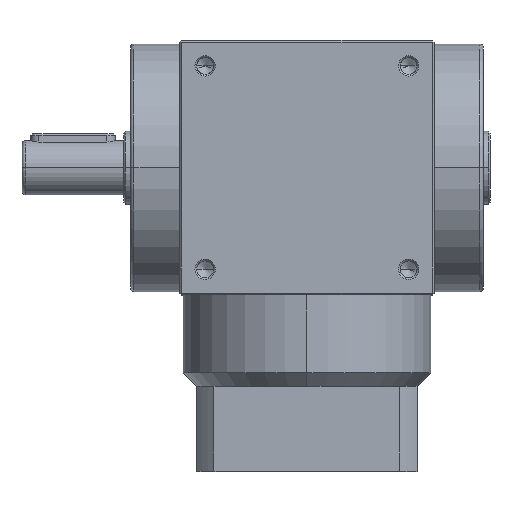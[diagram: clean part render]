
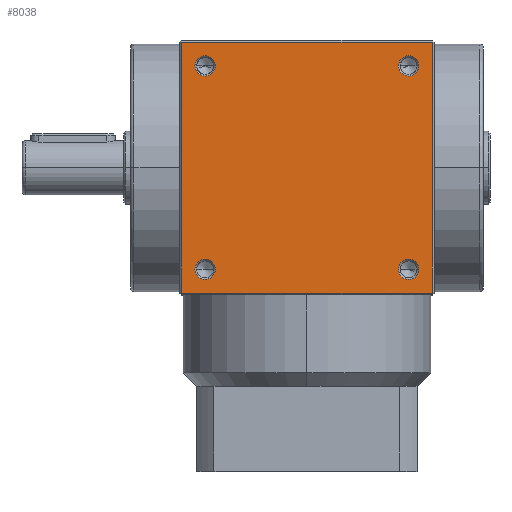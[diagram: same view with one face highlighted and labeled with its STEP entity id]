
A CAD part, top view. The second image highlights one B-rep face of the part: STEP entity #8038.
In plain terms, the highlighted planar face has unit normal (0, 0, 1).
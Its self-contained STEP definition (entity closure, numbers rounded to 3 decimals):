
#99 = DIRECTION ( 'NONE',  ( 0., 0., -1. ) ) ;
#146 = CARTESIAN_POINT ( 'NONE',  ( -33., -30., 37.5 ) ) ;
#156 = EDGE_LOOP ( 'NONE', ( #5364, #1910 ) ) ;
#210 = CARTESIAN_POINT ( 'NONE',  ( 30., 30., 37.5 ) ) ;
#295 = DIRECTION ( 'NONE',  ( -1., 0., 0. ) ) ;
#322 = CARTESIAN_POINT ( 'NONE',  ( -30., 30., 37.5 ) ) ;
#583 = CARTESIAN_POINT ( 'NONE',  ( 27., -30., 37.5 ) ) ;
#589 = LINE ( 'NONE', #7376, #909 ) ;
#652 = FACE_BOUND ( 'NONE', #5653, .T. ) ;
#722 = VERTEX_POINT ( 'NONE', #583 ) ;
#754 = CIRCLE ( 'NONE', #5859, 3. ) ;
#809 = PLANE ( 'NONE',  #1367 ) ;
#870 = LINE ( 'NONE', #4505, #4611 ) ;
#901 = CARTESIAN_POINT ( 'NONE',  ( 0., 0., 37.5 ) ) ;
#909 = VECTOR ( 'NONE', #4000, 1000. ) ;
#1053 = AXIS2_PLACEMENT_3D ( 'NONE', #5767, #3049, #6458 ) ;
#1071 = EDGE_CURVE ( 'NONE', #3305, #2233, #3508, .T. ) ;
#1191 = ORIENTED_EDGE ( 'NONE', *, *, #7841, .T. ) ;
#1367 = AXIS2_PLACEMENT_3D ( 'NONE', #901, #5674, #1563 ) ;
#1374 = CARTESIAN_POINT ( 'NONE',  ( 27., 30., 37.5 ) ) ;
#1394 = EDGE_CURVE ( 'NONE', #3103, #1542, #7755, .T. ) ;
#1436 = DIRECTION ( 'NONE',  ( -1., 0., 0. ) ) ;
#1542 = VERTEX_POINT ( 'NONE', #4158 ) ;
#1563 = DIRECTION ( 'NONE',  ( -1., 0., 0. ) ) ;
#1565 = ORIENTED_EDGE ( 'NONE', *, *, #6707, .T. ) ;
#1570 = VERTEX_POINT ( 'NONE', #1374 ) ;
#1606 = DIRECTION ( 'NONE',  ( -1., 0., 0. ) ) ;
#1731 = EDGE_LOOP ( 'NONE', ( #5040, #7885 ) ) ;
#1761 = AXIS2_PLACEMENT_3D ( 'NONE', #1831, #3301, #7363 ) ;
#1831 = CARTESIAN_POINT ( 'NONE',  ( 30., -30., 37.5 ) ) ;
#1910 = ORIENTED_EDGE ( 'NONE', *, *, #6882, .T. ) ;
#1956 = EDGE_CURVE ( 'NONE', #2896, #722, #5492, .T. ) ;
#2000 = CARTESIAN_POINT ( 'NONE',  ( 33., -30., 37.5 ) ) ;
#2028 = CARTESIAN_POINT ( 'NONE',  ( 37., 37., 37.5 ) ) ;
#2132 = DIRECTION ( 'NONE',  ( 0., 0., -1. ) ) ;
#2137 = CARTESIAN_POINT ( 'NONE',  ( -27., 30., 37.5 ) ) ;
#2233 = VERTEX_POINT ( 'NONE', #2363 ) ;
#2362 = ORIENTED_EDGE ( 'NONE', *, *, #1394, .T. ) ;
#2363 = CARTESIAN_POINT ( 'NONE',  ( 37., -37., 37.5 ) ) ;
#2365 = VERTEX_POINT ( 'NONE', #2028 ) ;
#2637 = EDGE_CURVE ( 'NONE', #7135, #1570, #6182, .T. ) ;
#2669 = FACE_BOUND ( 'NONE', #1731, .T. ) ;
#2739 = CARTESIAN_POINT ( 'NONE',  ( 30., 30., 37.5 ) ) ;
#2759 = AXIS2_PLACEMENT_3D ( 'NONE', #210, #4995, #1606 ) ;
#2775 = FACE_BOUND ( 'NONE', #156, .T. ) ;
#2790 = AXIS2_PLACEMENT_3D ( 'NONE', #5158, #4411, #7910 ) ;
#2803 = EDGE_LOOP ( 'NONE', ( #6687, #7146, #1191, #3812 ) ) ;
#2896 = VERTEX_POINT ( 'NONE', #2000 ) ;
#2985 = DIRECTION ( 'NONE',  ( 0., 0., -1. ) ) ;
#3049 = DIRECTION ( 'NONE',  ( 0., 0., -1. ) ) ;
#3078 = AXIS2_PLACEMENT_3D ( 'NONE', #8247, #7612, #1436 ) ;
#3103 = VERTEX_POINT ( 'NONE', #146 ) ;
#3219 = EDGE_CURVE ( 'NONE', #7358, #4547, #6165, .T. ) ;
#3301 = DIRECTION ( 'NONE',  ( 0., 0., -1. ) ) ;
#3305 = VERTEX_POINT ( 'NONE', #5012 ) ;
#3379 = CARTESIAN_POINT ( 'NONE',  ( -33., 30., 37.5 ) ) ;
#3440 = EDGE_CURVE ( 'NONE', #4278, #3305, #589, .T. ) ;
#3484 = CARTESIAN_POINT ( 'NONE',  ( -30., -30., 37.5 ) ) ;
#3508 = LINE ( 'NONE', #4413, #8728 ) ;
#3512 = EDGE_CURVE ( 'NONE', #722, #2896, #4338, .T. ) ;
#3812 = ORIENTED_EDGE ( 'NONE', *, *, #5226, .T. ) ;
#4000 = DIRECTION ( 'NONE',  ( 0., -1., 0. ) ) ;
#4158 = CARTESIAN_POINT ( 'NONE',  ( -27., -30., 37.5 ) ) ;
#4278 = VERTEX_POINT ( 'NONE', #7329 ) ;
#4296 = FACE_BOUND ( 'NONE', #5007, .T. ) ;
#4338 = CIRCLE ( 'NONE', #1761, 3. ) ;
#4411 = DIRECTION ( 'NONE',  ( 0., 0., -1. ) ) ;
#4413 = CARTESIAN_POINT ( 'NONE',  ( 0., -37., 37.5 ) ) ;
#4505 = CARTESIAN_POINT ( 'NONE',  ( 37., 0., 37.5 ) ) ;
#4547 = VERTEX_POINT ( 'NONE', #2137 ) ;
#4593 = ORIENTED_EDGE ( 'NONE', *, *, #3219, .T. ) ;
#4611 = VECTOR ( 'NONE', #7948, 1000. ) ;
#4995 = DIRECTION ( 'NONE',  ( 0., 0., -1. ) ) ;
#5007 = EDGE_LOOP ( 'NONE', ( #1565, #2362 ) ) ;
#5012 = CARTESIAN_POINT ( 'NONE',  ( -37., -37., 37.5 ) ) ;
#5034 = DIRECTION ( 'NONE',  ( 1., 0., 0. ) ) ;
#5040 = ORIENTED_EDGE ( 'NONE', *, *, #1956, .T. ) ;
#5089 = AXIS2_PLACEMENT_3D ( 'NONE', #322, #2985, #295 ) ;
#5158 = CARTESIAN_POINT ( 'NONE',  ( -30., 30., 37.5 ) ) ;
#5199 = VECTOR ( 'NONE', #6976, 1000. ) ;
#5226 = EDGE_CURVE ( 'NONE', #2365, #4278, #5508, .T. ) ;
#5364 = ORIENTED_EDGE ( 'NONE', *, *, #2637, .T. ) ;
#5492 = CIRCLE ( 'NONE', #3078, 3. ) ;
#5508 = LINE ( 'NONE', #5683, #5199 ) ;
#5653 = EDGE_LOOP ( 'NONE', ( #7026, #4593 ) ) ;
#5674 = DIRECTION ( 'NONE',  ( 0., 0., -1. ) ) ;
#5683 = CARTESIAN_POINT ( 'NONE',  ( 0., 37., 37.5 ) ) ;
#5767 = CARTESIAN_POINT ( 'NONE',  ( -30., -30., 37.5 ) ) ;
#5859 = AXIS2_PLACEMENT_3D ( 'NONE', #3484, #2132, #7535 ) ;
#6165 = CIRCLE ( 'NONE', #5089, 3. ) ;
#6182 = CIRCLE ( 'NONE', #7869, 3. ) ;
#6262 = CIRCLE ( 'NONE', #2759, 3. ) ;
#6458 = DIRECTION ( 'NONE',  ( -1., 0., 0. ) ) ;
#6687 = ORIENTED_EDGE ( 'NONE', *, *, #3440, .T. ) ;
#6707 = EDGE_CURVE ( 'NONE', #1542, #3103, #754, .T. ) ;
#6882 = EDGE_CURVE ( 'NONE', #1570, #7135, #6262, .T. ) ;
#6976 = DIRECTION ( 'NONE',  ( -1., 0., 0. ) ) ;
#7026 = ORIENTED_EDGE ( 'NONE', *, *, #8746, .T. ) ;
#7135 = VERTEX_POINT ( 'NONE', #8619 ) ;
#7146 = ORIENTED_EDGE ( 'NONE', *, *, #1071, .T. ) ;
#7329 = CARTESIAN_POINT ( 'NONE',  ( -37., 37., 37.5 ) ) ;
#7358 = VERTEX_POINT ( 'NONE', #3379 ) ;
#7363 = DIRECTION ( 'NONE',  ( -1., 0., 0. ) ) ;
#7376 = CARTESIAN_POINT ( 'NONE',  ( -37., 0., 37.5 ) ) ;
#7457 = FACE_OUTER_BOUND ( 'NONE', #2803, .T. ) ;
#7535 = DIRECTION ( 'NONE',  ( -1., 0., 0. ) ) ;
#7612 = DIRECTION ( 'NONE',  ( 0., 0., -1. ) ) ;
#7755 = CIRCLE ( 'NONE', #1053, 3. ) ;
#7841 = EDGE_CURVE ( 'NONE', #2233, #2365, #870, .T. ) ;
#7869 = AXIS2_PLACEMENT_3D ( 'NONE', #2739, #99, #8274 ) ;
#7885 = ORIENTED_EDGE ( 'NONE', *, *, #3512, .T. ) ;
#7910 = DIRECTION ( 'NONE',  ( -1., 0., 0. ) ) ;
#7948 = DIRECTION ( 'NONE',  ( 0., 1., 0. ) ) ;
#8038 = ADVANCED_FACE ( 'NONE', ( #2669, #4296, #2775, #652, #7457 ), #809, .F. ) ;
#8247 = CARTESIAN_POINT ( 'NONE',  ( 30., -30., 37.5 ) ) ;
#8274 = DIRECTION ( 'NONE',  ( -1., 0., 0. ) ) ;
#8619 = CARTESIAN_POINT ( 'NONE',  ( 33., 30., 37.5 ) ) ;
#8728 = VECTOR ( 'NONE', #5034, 1000. ) ;
#8746 = EDGE_CURVE ( 'NONE', #4547, #7358, #8842, .T. ) ;
#8842 = CIRCLE ( 'NONE', #2790, 3. ) ;
